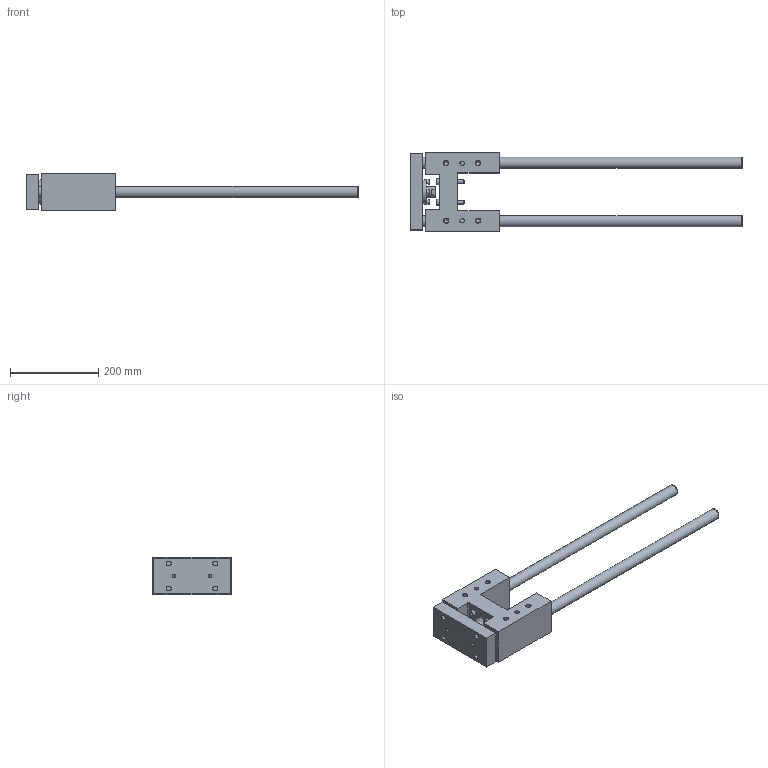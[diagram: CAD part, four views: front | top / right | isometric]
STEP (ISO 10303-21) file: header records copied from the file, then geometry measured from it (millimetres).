
FILE_DESCRIPTION( ( 'STEP AP214' ), '1' );
FILE_NAME( 'U:/Etudes/Top Solid/BIBLIO 3D AVM/TOP/PNEUMATIQUE/GUIDAGES/Type 32 (en H)/R_Renforcée/326R8_30.step', '2005-05-27T09:03:30', ( ' ' ), ( ' ' ), 'XStep 1.0', ' ', ' ' );
FILE_SCHEMA( ( 'automotive_design' ) );
Length unit declared in the file: metre
Products named in the file (2): 1; 2
Bounding box: 751 x 178 x 85 mm (x, y, z)
Volume: 2518993.2 mm3; surface area: 333337 mm2
Topology: 2 solids, 7 shells, 209 faces, 484 edges, 321 vertices
Faces by surface type: plane 118, cylinder 70, cone 21
Full cylindrical faces by diameter (mm): 6 x8, 6.5 x4, 8 x10, 8.376 x4, 9 x4, 10 x6, 10.106 x8, 11 x4, 13 x4, 14.376 x2, 18 x4, 24 x1, 25 x4, 26 x1, 34 x1, 37 x1, 40 x1, 55 x1
Entity records: 7089 total; most frequent: CARTESIAN_POINT 1103, DIRECTION 900, ORIENTED_EDGE 696, EDGE_LOOP 358, AXIS2_PLACEMENT_3D 349, EDGE_CURVE 348, VERTEX_POINT 280, FACE_OUTER_BOUND 277
